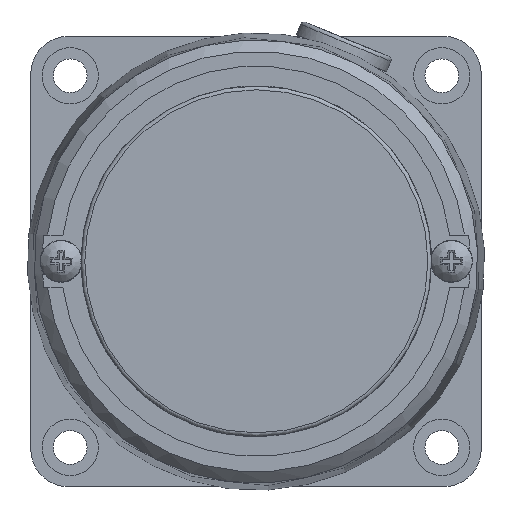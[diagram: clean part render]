
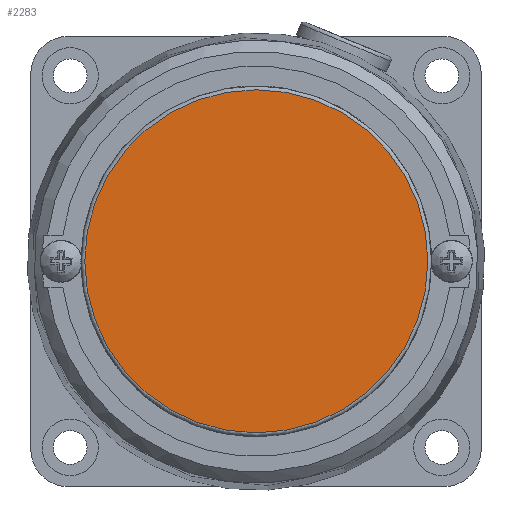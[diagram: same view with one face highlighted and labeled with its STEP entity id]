
A CAD part, left-side view. The second image highlights one B-rep face of the part: STEP entity #2283.
In plain terms, the highlighted planar face has unit normal (-1, 0, 0).
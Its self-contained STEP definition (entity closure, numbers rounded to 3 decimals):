
#2267=CARTESIAN_POINT('',(-48.,-0.037,19.212));
#2268=DIRECTION('',(-1.0,0.0,0.0));
#2269=DIRECTION('',(0.0,-1.0,0.0));
#2270=AXIS2_PLACEMENT_3D('',#2267,#2268,#2269);
#2271=PLANE('',#2270);
#2272=CARTESIAN_POINT('',(-48.,-0.037,22.887));
#2273=VERTEX_POINT('',#2272);
#2274=CARTESIAN_POINT('',(-48.,-0.037,0.037));
#2275=DIRECTION('',(1.0,0.0,0.0));
#2276=DIRECTION('',(0.0,0.0,-1.0));
#2277=AXIS2_PLACEMENT_3D('',#2274,#2275,#2276);
#2278=CIRCLE('',#2277,22.85);
#2279=EDGE_CURVE('',#2273,#2273,#2278,.T.);
#2280=ORIENTED_EDGE('',*,*,#2279,.F.);
#2281=EDGE_LOOP('',(#2280));
#2282=FACE_OUTER_BOUND('',#2281,.T.);
#2283=ADVANCED_FACE('',(#2282),#2271,.T.);
